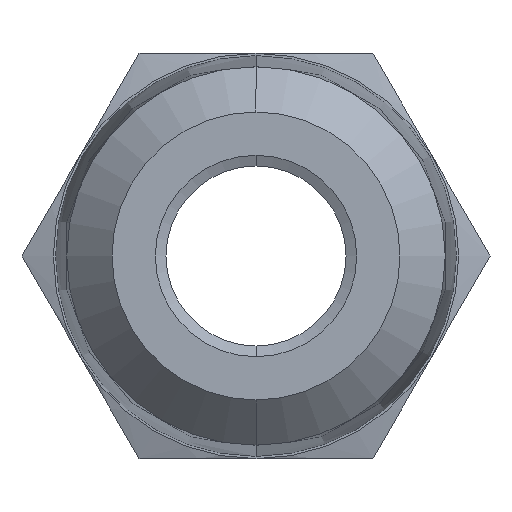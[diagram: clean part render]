
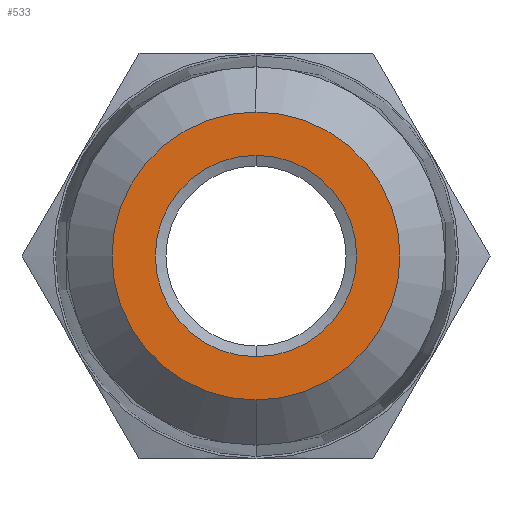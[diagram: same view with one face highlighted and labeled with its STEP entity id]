
A CAD part, left-side view. The second image highlights one B-rep face of the part: STEP entity #533.
In plain terms, the highlighted planar face has unit normal (-1, 0, 0).
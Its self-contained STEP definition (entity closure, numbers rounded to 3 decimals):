
#51 = VERTEX_POINT ( 'NONE', #173 ) ;
#58 = EDGE_CURVE ( 'NONE', #51, #59, #97, .T. ) ;
#59 = VERTEX_POINT ( 'NONE', #130 ) ;
#97 = CIRCLE ( 'NONE', #134, 3.55 ) ;
#130 = CARTESIAN_POINT ( 'NONE',  ( -14., 0., 3.55 ) ) ;
#131 = DIRECTION ( 'NONE',  ( 0., 0., 1. ) ) ;
#132 = DIRECTION ( 'NONE',  ( -1., 0., 0. ) ) ;
#133 = CARTESIAN_POINT ( 'NONE',  ( -14., 0., 0. ) ) ;
#134 = AXIS2_PLACEMENT_3D ( 'NONE', #133, #132, #131 ) ;
#138 = CIRCLE ( 'NONE', #225, 3.55 ) ;
#173 = CARTESIAN_POINT ( 'NONE',  ( -14., 0., -3.55 ) ) ;
#222 = DIRECTION ( 'NONE',  ( 0., 0., 1. ) ) ;
#223 = DIRECTION ( 'NONE',  ( -1., 0., 0. ) ) ;
#224 = CARTESIAN_POINT ( 'NONE',  ( -14., 0., 0. ) ) ;
#225 = AXIS2_PLACEMENT_3D ( 'NONE', #224, #223, #222 ) ;
#284 = EDGE_LOOP ( 'NONE', ( #285, #287 ) ) ;
#285 = ORIENTED_EDGE ( 'NONE', *, *, #286, .F. ) ;
#286 = EDGE_CURVE ( 'NONE', #59, #51, #138, .T. ) ;
#287 = ORIENTED_EDGE ( 'NONE', *, *, #58, .F. ) ;
#459 = EDGE_LOOP ( 'NONE', ( #460, #462 ) ) ;
#460 = ORIENTED_EDGE ( 'NONE', *, *, #461, .T. ) ;
#461 = EDGE_CURVE ( 'NONE', #1258, #1257, #817, .T. ) ;
#462 = ORIENTED_EDGE ( 'NONE', *, *, #1268, .T. ) ;
#533 = ADVANCED_FACE ( 'NONE', ( #931, #926 ), #925, .T. ) ;
#813 = DIRECTION ( 'NONE',  ( 0., 0., 1. ) ) ;
#814 = DIRECTION ( 'NONE',  ( -1., 0., 0. ) ) ;
#815 = CARTESIAN_POINT ( 'NONE',  ( -14., 0., 0. ) ) ;
#816 = AXIS2_PLACEMENT_3D ( 'NONE', #815, #814, #813 ) ;
#817 = CIRCLE ( 'NONE', #816, 5.077 ) ;
#921 = DIRECTION ( 'NONE',  ( -1., 0., 0. ) ) ;
#922 = AXIS2_PLACEMENT_3D ( 'NONE', #924, #921, #983 ) ;
#924 = CARTESIAN_POINT ( 'NONE',  ( -14., 0., 0. ) ) ;
#925 = PLANE ( 'NONE',  #922 ) ;
#926 = FACE_BOUND ( 'NONE', #284, .T. ) ;
#931 = FACE_OUTER_BOUND ( 'NONE', #459, .T. ) ;
#983 = DIRECTION ( 'NONE',  ( 0., 0., 1. ) ) ;
#1052 = DIRECTION ( 'NONE',  ( 0., 0., 1. ) ) ;
#1053 = DIRECTION ( 'NONE',  ( -1., 0., 0. ) ) ;
#1054 = CARTESIAN_POINT ( 'NONE',  ( -14., 0., 0. ) ) ;
#1055 = AXIS2_PLACEMENT_3D ( 'NONE', #1054, #1053, #1052 ) ;
#1056 = CIRCLE ( 'NONE', #1055, 5.077 ) ;
#1154 = CARTESIAN_POINT ( 'NONE',  ( -14., 0., -5.077 ) ) ;
#1159 = CARTESIAN_POINT ( 'NONE',  ( -14., 0., 5.077 ) ) ;
#1257 = VERTEX_POINT ( 'NONE', #1159 ) ;
#1258 = VERTEX_POINT ( 'NONE', #1154 ) ;
#1268 = EDGE_CURVE ( 'NONE', #1257, #1258, #1056, .T. ) ;
